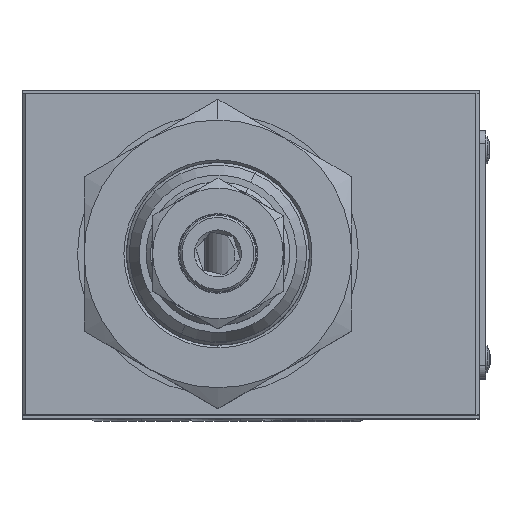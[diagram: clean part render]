
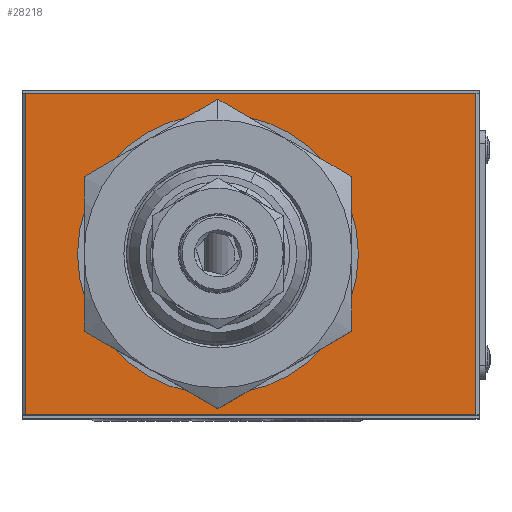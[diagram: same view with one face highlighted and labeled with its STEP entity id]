
A CAD part, top view. The second image highlights one B-rep face of the part: STEP entity #28218.
In plain terms, the highlighted planar face has unit normal (0, 0, 1).
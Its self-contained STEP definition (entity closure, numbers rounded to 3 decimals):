
#763 = CARTESIAN_POINT ( 'NONE',  ( -26.5, 0., 55. ) ) ;
#1069 = DIRECTION ( 'NONE',  ( -1., 0., 0. ) ) ;
#1343 = DIRECTION ( 'NONE',  ( -1., 0., 0. ) ) ;
#1368 = CARTESIAN_POINT ( 'NONE',  ( 34.5, -25.1, 55. ) ) ;
#2339 = DIRECTION ( 'NONE',  ( 1., 0., 0. ) ) ;
#2440 = ORIENTED_EDGE ( 'NONE', *, *, #6624, .T. ) ;
#2496 = EDGE_CURVE ( 'NONE', #52002, #13886, #31154, .T. ) ;
#2634 = DIRECTION ( 'NONE',  ( 0., 1., 0. ) ) ;
#3959 = CARTESIAN_POINT ( 'NONE',  ( 34.5, 24.6, 55. ) ) ;
#4055 = LINE ( 'NONE', #26093, #21588 ) ;
#4850 = AXIS2_PLACEMENT_3D ( 'NONE', #9778, #34393, #50468 ) ;
#6203 = CARTESIAN_POINT ( 'NONE',  ( 34.5, -24.6, 55. ) ) ;
#6624 = EDGE_CURVE ( 'NONE', #48525, #16302, #8650, .T. ) ;
#8342 = EDGE_LOOP ( 'NONE', ( #2440, #30508 ) ) ;
#8650 = CIRCLE ( 'NONE', #28107, 21.5 ) ;
#9545 = CIRCLE ( 'NONE', #51950, 21.5 ) ;
#9612 = VECTOR ( 'NONE', #2339, 1000. ) ;
#9778 = CARTESIAN_POINT ( 'NONE',  ( 35., -25.1, 55. ) ) ;
#9790 = CARTESIAN_POINT ( 'NONE',  ( -35., -24.6, 55. ) ) ;
#13886 = VERTEX_POINT ( 'NONE', #3959 ) ;
#13957 = ORIENTED_EDGE ( 'NONE', *, *, #43231, .T. ) ;
#14266 = EDGE_LOOP ( 'NONE', ( #27363, #42048, #13957, #49927 ) ) ;
#16302 = VERTEX_POINT ( 'NONE', #37678 ) ;
#18561 = DIRECTION ( 'NONE',  ( -1., 0., 0. ) ) ;
#19022 = FACE_OUTER_BOUND ( 'NONE', #14266, .T. ) ;
#20184 = VECTOR ( 'NONE', #2634, 1000. ) ;
#20525 = PLANE ( 'NONE',  #4850 ) ;
#21588 = VECTOR ( 'NONE', #1069, 1000. ) ;
#21992 = VECTOR ( 'NONE', #38337, 1000. ) ;
#22395 = DIRECTION ( 'NONE',  ( 0., 0., -1. ) ) ;
#22432 = EDGE_CURVE ( 'NONE', #29688, #43372, #23315, .T. ) ;
#23315 = LINE ( 'NONE', #25916, #21992 ) ;
#24068 = CARTESIAN_POINT ( 'NONE',  ( -34.5, 24.6, 55. ) ) ;
#25916 = CARTESIAN_POINT ( 'NONE',  ( -34.5, -25.1, 55. ) ) ;
#26093 = CARTESIAN_POINT ( 'NONE',  ( 35., 24.6, 55. ) ) ;
#27090 = LINE ( 'NONE', #9790, #9612 ) ;
#27363 = ORIENTED_EDGE ( 'NONE', *, *, #41162, .T. ) ;
#28107 = AXIS2_PLACEMENT_3D ( 'NONE', #46744, #47081, #18561 ) ;
#28218 = ADVANCED_FACE ( 'NONE', ( #52622, #19022 ), #20525, .F. ) ;
#29688 = VERTEX_POINT ( 'NONE', #24068 ) ;
#30508 = ORIENTED_EDGE ( 'NONE', *, *, #38009, .T. ) ;
#31154 = LINE ( 'NONE', #1368, #20184 ) ;
#34393 = DIRECTION ( 'NONE',  ( 0., 0., -1. ) ) ;
#35829 = CARTESIAN_POINT ( 'NONE',  ( -34.5, -24.6, 55. ) ) ;
#37678 = CARTESIAN_POINT ( 'NONE',  ( 16.5, 0., 55. ) ) ;
#38009 = EDGE_CURVE ( 'NONE', #16302, #48525, #9545, .T. ) ;
#38337 = DIRECTION ( 'NONE',  ( 0., -1., 0. ) ) ;
#41162 = EDGE_CURVE ( 'NONE', #43372, #52002, #27090, .T. ) ;
#42048 = ORIENTED_EDGE ( 'NONE', *, *, #2496, .T. ) ;
#43231 = EDGE_CURVE ( 'NONE', #13886, #29688, #4055, .T. ) ;
#43372 = VERTEX_POINT ( 'NONE', #35829 ) ;
#46744 = CARTESIAN_POINT ( 'NONE',  ( -5., 0., 55. ) ) ;
#46757 = CARTESIAN_POINT ( 'NONE',  ( -5., 0., 55. ) ) ;
#47081 = DIRECTION ( 'NONE',  ( 0., 0., -1. ) ) ;
#48525 = VERTEX_POINT ( 'NONE', #763 ) ;
#49927 = ORIENTED_EDGE ( 'NONE', *, *, #22432, .T. ) ;
#50468 = DIRECTION ( 'NONE',  ( -1., 0., 0. ) ) ;
#51950 = AXIS2_PLACEMENT_3D ( 'NONE', #46757, #22395, #1343 ) ;
#52002 = VERTEX_POINT ( 'NONE', #6203 ) ;
#52622 = FACE_BOUND ( 'NONE', #8342, .T. ) ;
